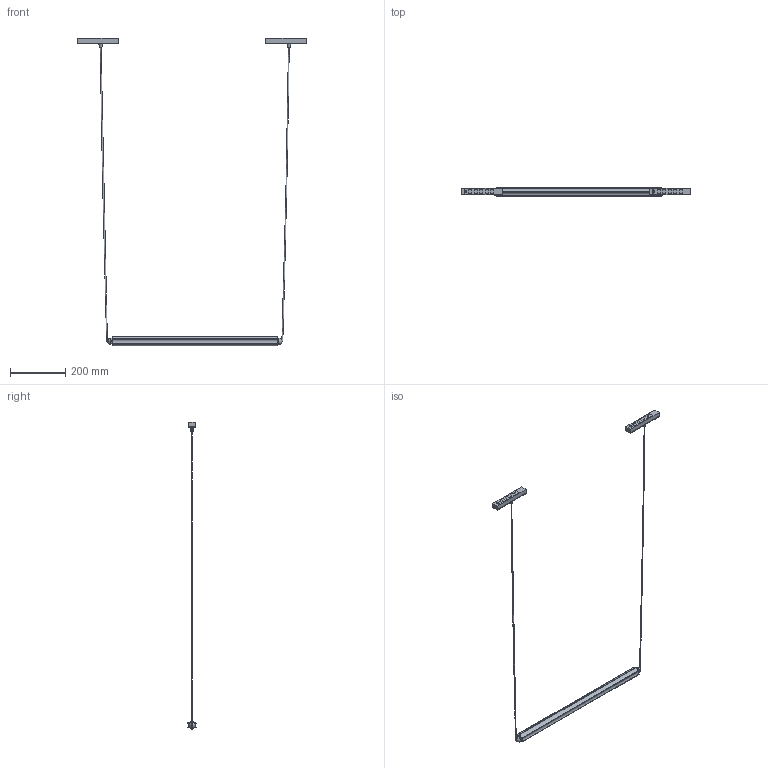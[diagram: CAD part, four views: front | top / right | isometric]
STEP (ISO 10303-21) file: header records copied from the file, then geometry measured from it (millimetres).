
FILE_DESCRIPTION(/* description */ (''),/* implementation_level */ '2;1');
FILE_NAME(/* name */ '64612141_3D',/* time_stamp */ '2026-05-11T09:11:13+02:00',/* author */ (''),/* organization */ (''),/* preprocessor_version */ 'ST-DEVELOPER v19.2',/* originating_system */ 'Rhino 8.30',/* authorisation */ '');
FILE_SCHEMA (('CONFIG_CONTROL_DESIGN'));
Length unit declared in the file: millimetre
Products named in the file (1): Document
Bounding box: 832.88 x 29.26 x 1118.96 mm (x, y, z)
Volume: 228040.3 mm3; surface area: 153632 mm2
Topology: 5 solids, 19 shells, 193 faces, 512 edges, 343 vertices
Faces by surface type: plane 104, cylinder 67, bspline 22
Entity records: 13754 total; most frequent: CARTESIAN_POINT 9604, ORIENTED_EDGE 978, EDGE_CURVE 505, DIRECTION 443, B_SPLINE_CURVE_WITH_KNOTS 362, VERTEX_POINT 338, AXIS2_PLACEMENT_3D 307, EDGE_LOOP 231
